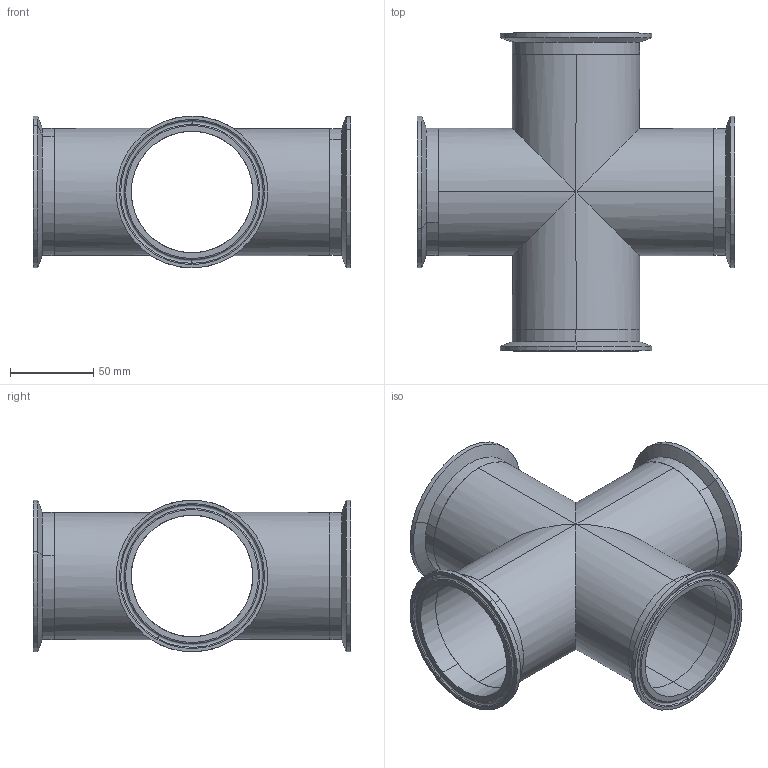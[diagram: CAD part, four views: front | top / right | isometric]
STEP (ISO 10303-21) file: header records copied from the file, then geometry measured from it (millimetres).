
FILE_DESCRIPTION (( 'STEP AP203' ), '1' );
FILE_NAME ('EG9 3.0.STEP', '2021-10-25T16:24:33', ( '' ), ( '' ), 'SwSTEP 2.0', 'SolidWorks 2021', '' );
FILE_SCHEMA (( 'CONFIG_CONTROL_DESIGN' ));
Length unit declared in the file: inch
Products named in the file (3): V9W3.0; EG2CS3.0; EG9 3.0
Assembly tree (5 placements, depth 2):
  EG9 3.0
    V9W3.0
    EG2CS3.0  x4
Bounding box: 190.5 x 190.5 x 90.91 mm (x, y, z)
Volume: 140126.1 mm3; surface area: 153534.3 mm2
Topology: 5 solids, 5 shells, 88 faces, 176 edges, 100 vertices
Faces by surface type: cylinder 40, torus 24, plane 16, cone 8
Entity records: 1369 total; most frequent: DIRECTION 198, CARTESIAN_POINT 183, ORIENTED_EDGE 148, AXIS2_PLACEMENT_3D 87, EDGE_CURVE 74, EDGE_LOOP 44, CIRCLE 42, VERTEX_POINT 40
